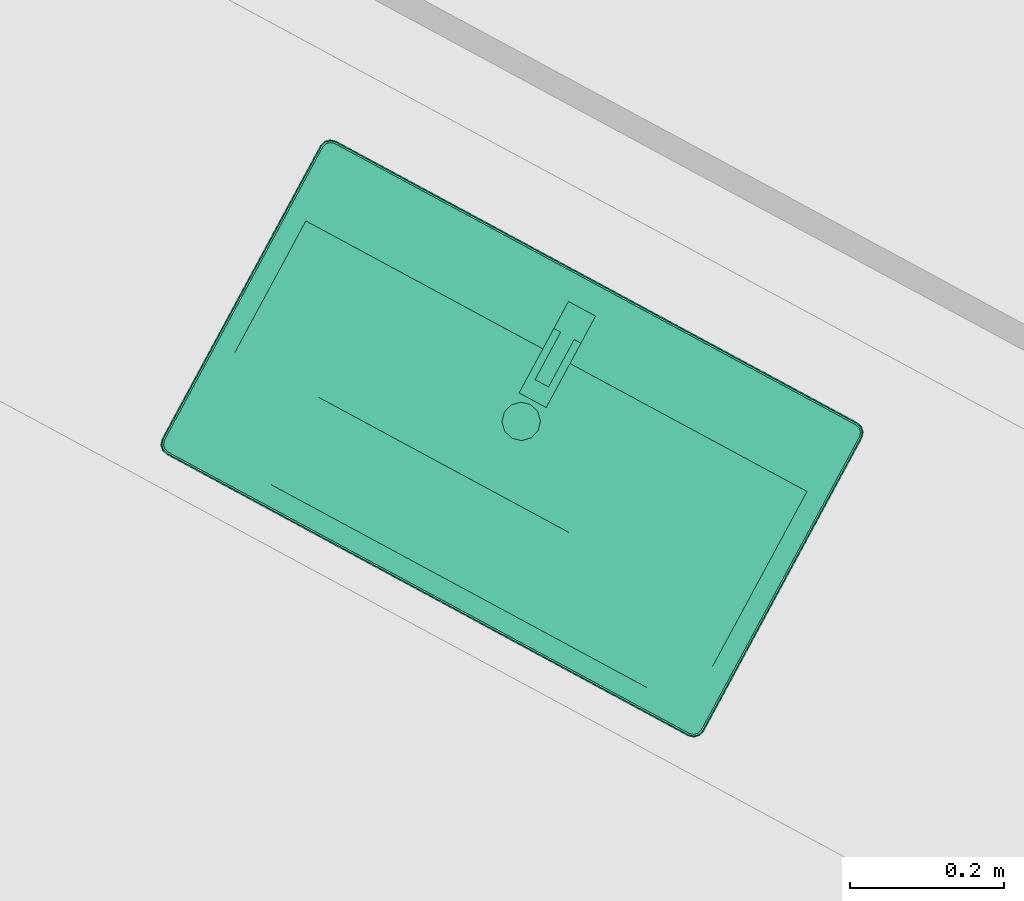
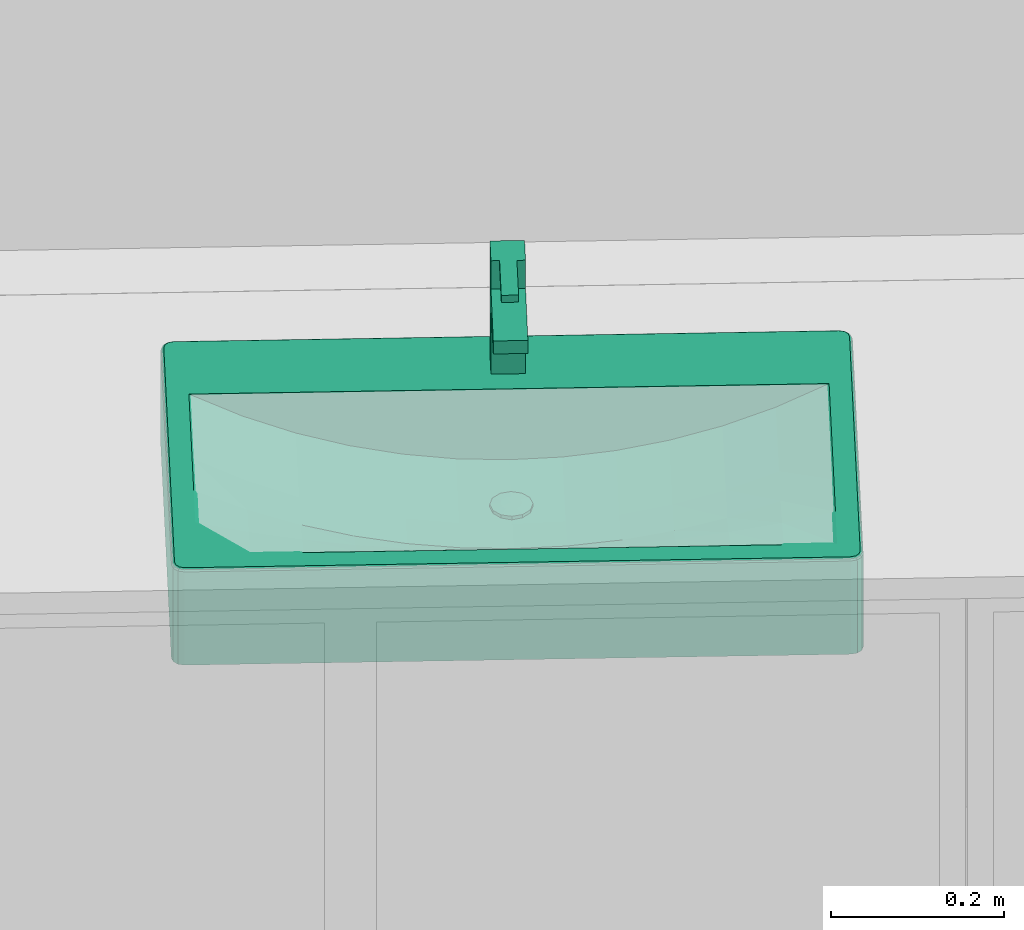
# One storey, part 18 of 48: 1 distribution element.
"""IFC2X3 building model written with IfcOpenShell, lengths in metres."""

from ifc_helpers import new_model, entity, si_unit, converted_unit, derived_unit, money_unit, direction, frame, origin_with_axes, place, context, subcontext, project, spatial, open_shell, faceted_brep, surface_model, type_object, element, save


model = new_model("IFC2X3")

# Units and contexts
model_context = context("Model", 3, precision=1e-05, world=origin_with_axes(), true_north=direction((0.0, 1.0)))
body_context = subcontext(model_context, "Body", "Model", "MODEL_VIEW")
ifc_project = project(units=[si_unit("LENGTHUNIT", "METRE"), si_unit("AREAUNIT", "SQUARE_METRE"), si_unit("VOLUMEUNIT", "CUBIC_METRE"), converted_unit("PLANEANGLEUNIT", "DEGREE", entity("IfcPlaneAngleMeasure", 0.0174532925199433), si_unit("PLANEANGLEUNIT", "RADIAN"), dimensions=[0, 0, 0, 0, 0, 0, 0]), money_unit("EUR"), converted_unit("TIMEUNIT", "Year", entity("IfcTimeMeasure", 31556926.0), si_unit("TIMEUNIT", "SECOND"), dimensions=[0, 0, 1, 0, 0, 0, 0]), si_unit("MASSUNIT", "GRAM", prefix="KILO"), si_unit("THERMODYNAMICTEMPERATUREUNIT", "DEGREE_CELSIUS"), si_unit("LUMINOUSINTENSITYUNIT", "LUMEN"), si_unit("ENERGYUNIT", "JOULE", prefix="MEGA"), derived_unit("THERMALCONDUCTANCEUNIT", [(si_unit("POWERUNIT", "WATT"), 1), (si_unit("LENGTHUNIT", "METRE"), -1), (si_unit("THERMODYNAMICTEMPERATUREUNIT", "KELVIN"), -1)]), derived_unit("SPECIFICHEATCAPACITYUNIT", [(si_unit("ENERGYUNIT", "JOULE"), 1), (si_unit("MASSUNIT", "GRAM", prefix="KILO"), -1), (si_unit("THERMODYNAMICTEMPERATUREUNIT", "KELVIN"), -1)]), derived_unit("MASSDENSITYUNIT", [(si_unit("MASSUNIT", "GRAM", prefix="KILO"), 1), (si_unit("VOLUMEUNIT", "CUBIC_METRE"), -1)])], contexts=[model_context])

# Site, building, storey
site_placement = place(None, frame((-3.949935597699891, 1.740105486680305, 0.0), z_axis=(0.0, 0.0, 1.0), x_axis=(0.8799804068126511, -0.475009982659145, 0.0)))
site = spatial("IfcSite", under=ifc_project, at=site_placement, Name="Gelände", CompositionType="ELEMENT")
building_placement = place(site_placement, origin_with_axes())
building = spatial("IfcBuilding", under=site, at=building_placement, Name="Gebäude", CompositionType="ELEMENT")
storey_placement = place(building_placement, frame((0.0, 0.0, 4.55), z_axis=(0.0, 0.0, 1.0), x_axis=(1.0, 0.0, 0.0)))
storey = spatial("IfcBuildingStorey", under=building, at=storey_placement, Name="Staffelgeschoss", CompositionType="ELEMENT", Elevation=4.55)

# Distribution element
distribution_element_type = type_object("IfcDistributionElementType", Name="Waschbecken 1 22")
distribution_element_placement = place(storey_placement, frame((22.421146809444, 4.431900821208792, 0.0), z_axis=(0.0, 0.0, 1.0), x_axis=(1.0, 0.0, 0.0)))
element("IfcDistributionElement", 1, at=distribution_element_placement, inside=storey, type_object=distribution_element_type, Name="Objekt-0061", context=body_context, shape_type="SurfaceModel", body=[
    faceted_brep([(-0.385, -0.4629798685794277, 0.715), (-0.3925, -0.4609702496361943, 0.715), (-0.3979903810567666, -0.4554798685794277, 0.715), (-0.4, -0.4479798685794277, 0.715), (-0.4, -0.01500000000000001, 0.715), (-0.3979903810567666, -0.007500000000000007, 0.715), (-0.3925, -0.002009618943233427, 0.715), (-0.385, 0.0, 0.715), (0.385, 0.0, 0.715), (0.3925, -0.002009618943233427, 0.715), (0.3979903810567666, -0.007500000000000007, 0.715), (0.4, -0.01500000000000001, 0.715), (0.4, -0.4479798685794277, 0.715), (0.3979903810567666, -0.4554798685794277, 0.715), (0.3925, -0.4609702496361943, 0.715), (0.385, -0.4629798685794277, 0.715), (0.37, -0.4329798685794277, 0.715), (0.37, -0.11, 0.715), (-0.37, -0.11, 0.715), (-0.37, -0.4329798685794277, 0.715), (-0.3849999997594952, -0.4629798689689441, 0.845), (-0.3925000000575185, -0.4609702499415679, 0.845), (-0.3979903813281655, -0.4554798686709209, 0.845), (-0.4000000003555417, -0.4479798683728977, 0.845), (-0.4000000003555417, -0.01499999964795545, 0.845), (-0.3979903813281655, -0.007500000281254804, 0.845), (-0.3925000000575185, -0.002009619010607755, 0.845), (-0.3849999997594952, 0.0, 0.845), (0.3849999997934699, 0.0, 0.845), (0.3925000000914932, -0.002009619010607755, 0.845), (0.3979903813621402, -0.007500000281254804, 0.845), (0.4000000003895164, -0.01499999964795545, 0.845), (0.4000000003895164, -0.4479798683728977, 0.845), (0.3979903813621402, -0.4554798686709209, 0.845), (0.3925000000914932, -0.4609702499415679, 0.845), (0.3849999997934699, -0.4629798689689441, 0.845), (0.37, -0.11, 0.84999999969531), (0.37, -0.4329798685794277, 0.84999999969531), (-0.37, -0.11, 0.84999999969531), (-0.37, -0.4329798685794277, 0.84999999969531), (-0.3849775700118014, -0.4628094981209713, 0.8462940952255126), (-0.3924118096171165, -0.4608174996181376, 0.8462940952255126), (-0.3978376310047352, -0.4553916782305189, 0.8462940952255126), (-0.3998296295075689, -0.4479574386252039, 0.8462940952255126), (-0.3998296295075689, -0.01502242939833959, 0.8462940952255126), (-0.3978376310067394, -0.007588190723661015, 0.8462940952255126), (-0.3924118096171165, -0.002162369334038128, 0.8462940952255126), (-0.3849775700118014, -0.0001703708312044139, 0.8462940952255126), (0.3849775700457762, -0.0001703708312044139, 0.8462940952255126), (0.3924118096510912, -0.002162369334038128, 0.8462940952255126), (0.3978376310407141, -0.007588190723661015, 0.8462940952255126), (0.3998296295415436, -0.01502242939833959, 0.8462940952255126), (0.3998296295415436, -0.4479574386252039, 0.8462940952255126), (0.3978376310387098, -0.4553916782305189, 0.8462940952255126), (0.3924118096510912, -0.4608174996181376, 0.8462940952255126), (0.3849775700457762, -0.4628094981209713, 0.8462940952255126), (0.3843417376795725, -0.004999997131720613, 0.84999999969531), (-0.3843417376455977, -0.004999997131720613, 0.84999999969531), (-0.3899118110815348, -0.006492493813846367, 0.84999999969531), (-0.3935075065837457, -0.01008818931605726, 0.84999999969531), (-0.3950000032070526, -0.01565826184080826, 0.84999999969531), (-0.3950000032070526, -0.4473216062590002, 0.84999999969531), (-0.3935075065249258, -0.4528916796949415, 0.84999999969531), (-0.3899118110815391, -0.4564873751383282, 0.84999999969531), (-0.3843417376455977, -0.4579798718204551, 0.84999999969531), (0.3843417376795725, -0.4579798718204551, 0.84999999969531), (0.3899118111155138, -0.4564873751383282, 0.84999999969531), (0.3935075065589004, -0.4528916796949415, 0.84999999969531), (0.3950000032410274, -0.4473216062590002, 0.84999999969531), (0.3950000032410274, -0.01565826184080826, 0.84999999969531), (0.3935075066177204, -0.01008818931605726, 0.84999999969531), (0.3899118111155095, -0.006492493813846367, 0.84999999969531), (-0.3848071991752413, -0.4615154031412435, 0.8485355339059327), (-0.3917419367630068, -0.4596572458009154, 0.8485355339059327), (-0.396677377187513, -0.4547218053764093, 0.8485355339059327), (-0.398535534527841, -0.4477870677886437, 0.8485355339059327), (-0.398535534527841, -0.01519280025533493, 0.8485355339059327), (-0.3966773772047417, -0.00825806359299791, 0.8485355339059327), (-0.391741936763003, -0.003322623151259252, 0.8485355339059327), (-0.3848071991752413, -0.001464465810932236, 0.8485355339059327), (0.384807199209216, -0.001464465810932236, 0.8485355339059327), (0.3917419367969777, -0.003322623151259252, 0.8485355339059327), (0.3966773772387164, -0.00825806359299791, 0.8485355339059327), (0.3985355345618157, -0.01519280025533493, 0.8485355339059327), (0.3985355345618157, -0.4477870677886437, 0.8485355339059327), (0.3966773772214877, -0.4547218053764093, 0.8485355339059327), (0.3917419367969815, -0.4596572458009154, 0.8485355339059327), (0.384807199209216, -0.4615154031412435, 0.8485355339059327), (0.3845121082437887, -0.003705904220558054, 0.8498296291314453), (-0.3845121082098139, -0.003705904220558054, 0.8498296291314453), (-0.3905816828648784, -0.005332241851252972, 0.8498296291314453), (-0.3946677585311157, -0.009418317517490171, 0.8498296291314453), (-0.3962940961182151, -0.01548789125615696, 0.8498296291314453), (-0.3962940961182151, -0.4474919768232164, 0.8498296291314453), (-0.3946677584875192, -0.453561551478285, 0.8498296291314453), (-0.3905816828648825, -0.4576476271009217, 0.8498296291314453), (-0.3845121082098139, -0.4592739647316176, 0.8498296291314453), (0.3845121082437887, -0.4592739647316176, 0.8498296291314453), (0.3905816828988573, -0.4576476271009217, 0.8498296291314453), (0.3946677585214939, -0.453561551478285, 0.8498296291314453), (0.3962940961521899, -0.4474919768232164, 0.8498296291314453), (0.3962940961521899, -0.01548789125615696, 0.8498296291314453), (0.3946677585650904, -0.009418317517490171, 0.8498296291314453), (0.3905816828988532, -0.005332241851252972, 0.8498296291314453)], [[[0, 1, 2, 3, 4, 5, 6, 7, 8, 9, 10, 11, 12, 13, 14, 15], [16, 17, 18, 19]], [[1, 0, 20, 21]], [[2, 1, 21, 22]], [[3, 2, 22, 23]], [[4, 3, 23, 24]], [[5, 4, 24, 25]], [[6, 5, 25, 26]], [[7, 6, 26, 27]], [[8, 7, 27, 28]], [[9, 8, 28, 29]], [[10, 9, 29, 30]], [[11, 10, 30, 31]], [[12, 11, 31, 32]], [[13, 12, 32, 33]], [[14, 13, 33, 34]], [[15, 14, 34, 35]], [[0, 15, 35, 20]], [[36, 17, 16, 37]], [[38, 18, 17, 36]], [[39, 19, 18, 38]], [[37, 16, 19, 39]], [[21, 20, 40, 41]], [[22, 21, 41, 42]], [[23, 22, 42, 43]], [[24, 23, 43, 44]], [[25, 24, 44, 45]], [[26, 25, 45, 46]], [[27, 26, 46, 47]], [[28, 27, 47, 48]], [[29, 28, 48, 49]], [[30, 29, 49, 50]], [[31, 30, 50, 51]], [[32, 31, 51, 52]], [[33, 32, 52, 53]], [[34, 33, 53, 54]], [[35, 34, 54, 55]], [[20, 35, 55, 40]], [[56, 57, 58, 59, 60, 61, 62, 63, 64, 65, 66, 67, 68, 69, 70, 71], [37, 39, 38, 36]], [[41, 40, 72, 73]], [[42, 41, 73, 74]], [[43, 42, 74, 75]], [[44, 43, 75, 76]], [[45, 44, 76, 77]], [[46, 45, 77, 78]], [[47, 46, 78, 79]], [[48, 47, 79, 80]], [[49, 48, 80, 81]], [[50, 49, 81, 82]], [[51, 50, 82, 83]], [[52, 51, 83, 84]], [[53, 52, 84, 85]], [[54, 53, 85, 86]], [[55, 54, 86, 87]], [[40, 55, 87, 72]], [[88, 89, 57, 56]], [[89, 90, 58, 57]], [[90, 91, 59, 58]], [[91, 92, 60, 59]], [[92, 93, 61, 60]], [[93, 94, 62, 61]], [[94, 95, 63, 62]], [[95, 96, 64, 63]], [[96, 97, 65, 64]], [[97, 98, 66, 65]], [[98, 99, 67, 66]], [[99, 100, 68, 67]], [[100, 101, 69, 68]], [[101, 102, 70, 69]], [[102, 103, 71, 70]], [[103, 88, 56, 71]], [[73, 72, 96, 95]], [[74, 73, 95, 94]], [[75, 74, 94, 93]], [[76, 75, 93, 92]], [[77, 76, 92, 91]], [[78, 77, 91, 90]], [[79, 78, 90, 89]], [[80, 79, 89, 88]], [[81, 80, 88, 103]], [[82, 81, 103, 102]], [[83, 82, 102, 101]], [[84, 83, 101, 100]], [[85, 84, 100, 99]], [[86, 85, 99, 98]], [[87, 86, 98, 97]], [[72, 87, 97, 96]]]),
    faceted_brep([(0.37, -0.4329798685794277, 0.715), (-0.37, -0.4329798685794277, 0.715), (-0.37, -0.11, 0.715), (0.37, -0.11, 0.715), (-0.01249999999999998, -0.2279082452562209, 0.715), (0.0, -0.2312576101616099, 0.715), (0.01250000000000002, -0.2279082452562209, 0.715), (0.02165063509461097, -0.2187576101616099, 0.715), (0.025, -0.2062576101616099, 0.715), (0.02165063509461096, -0.1937576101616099, 0.715), (0.01249999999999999, -0.184606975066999, 0.715), (0.0, -0.18125761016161, 0.715), (-0.01250000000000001, -0.184606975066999, 0.715), (-0.02165063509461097, -0.1937576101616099, 0.715), (-0.025, -0.20625761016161, 0.715), (-0.02165063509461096, -0.21875761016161, 0.715), (0.185, -0.4329798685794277, 0.85), (0.1233333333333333, -0.4329798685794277, 0.85), (0.06166666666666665, -0.4329798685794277, 0.85), (0.0, -0.4329798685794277, 0.85), (-0.0616666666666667, -0.4329798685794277, 0.85), (-0.1233333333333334, -0.4329798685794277, 0.85), (-0.1850000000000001, -0.4329798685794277, 0.85), (-0.2466666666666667, -0.4329798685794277, 0.85), (-0.3083333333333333, -0.4329798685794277, 0.85), (-0.37, -0.4329798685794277, 0.85), (0.37, -0.4329798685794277, 0.85), (0.3083333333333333, -0.4329798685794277, 0.85), (0.2466666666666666, -0.4329798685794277, 0.85), (-0.37, -0.2391919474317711, 0.8499999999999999), (-0.37, -0.1745959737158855, 0.8499999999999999), (-0.37, -0.11, 0.8499999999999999), (-0.37, -0.3683838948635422, 0.85), (-0.37, -0.3037879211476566, 0.8499999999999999), (-0.1850000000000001, -0.11, 0.7736798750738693), (-0.1233333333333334, -0.11, 0.7604287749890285), (-0.0616666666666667, -0.11, 0.7525932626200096), (0.0, -0.11, 0.75), (0.06166666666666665, -0.11, 0.7525932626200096), (0.1233333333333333, -0.11, 0.7604287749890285), (0.185, -0.11, 0.7736798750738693), (0.2466666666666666, -0.11, 0.7926576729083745), (0.3083333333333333, -0.11, 0.8178510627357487), (0.37, -0.11, 0.85), (-0.3083333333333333, -0.11, 0.8178510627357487), (-0.2466666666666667, -0.11, 0.7926576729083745), (0.37, -0.3037879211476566, 0.85), (0.37, -0.3683838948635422, 0.85), (0.37, -0.1745959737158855, 0.85), (0.37, -0.2391919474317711, 0.85), (0.0, -0.2312576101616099, 0.75), (-0.01249999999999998, -0.2279082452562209, 0.7505256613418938), (0.01250000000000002, -0.2279082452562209, 0.7505256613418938), (0.02165063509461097, -0.2187576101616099, 0.7509104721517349), (0.025, -0.2062576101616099, 0.7510513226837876), (0.02165063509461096, -0.1937576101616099, 0.7509104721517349), (0.01249999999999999, -0.184606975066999, 0.7505256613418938), (0.0, -0.18125761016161, 0.75), (-0.01250000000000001, -0.184606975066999, 0.7505256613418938), (-0.02165063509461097, -0.1937576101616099, 0.7509104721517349), (-0.025, -0.20625761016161, 0.7510513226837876), (-0.02165063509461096, -0.21875761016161, 0.7509104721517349), (0.1233333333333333, -0.3683838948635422, 0.8078267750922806), (0.06166666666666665, -0.3683838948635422, 0.8039351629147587), (0.0, -0.3683838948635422, 0.8026402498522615), (-0.0616666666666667, -0.3683838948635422, 0.8039351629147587), (-0.1233333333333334, -0.3683838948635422, 0.8078267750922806), (-0.1850000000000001, -0.3683838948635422, 0.814335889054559), (-0.2466666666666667, -0.3683838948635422, 0.8234977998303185), (-0.3083333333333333, -0.3683838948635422, 0.8353632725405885), (0.3083333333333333, -0.3683838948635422, 0.8353632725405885), (0.2466666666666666, -0.3683838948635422, 0.8234977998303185), (0.185, -0.3683838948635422, 0.814335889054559), (-0.3083333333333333, -0.2391919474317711, 0.8178510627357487), (-0.3083333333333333, -0.1745959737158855, 0.8178510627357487), (-0.3083333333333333, -0.3037879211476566, 0.8214477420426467), (-0.1850000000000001, -0.1745959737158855, 0.7736798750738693), (-0.1233333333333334, -0.1745959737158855, 0.7604287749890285), (-0.0616666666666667, -0.1745959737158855, 0.7525932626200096), (0.0, -0.1745959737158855, 0.75), (0.06166666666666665, -0.1745959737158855, 0.7525932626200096), (0.1233333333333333, -0.1745959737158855, 0.7604287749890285), (0.185, -0.1745959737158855, 0.7736798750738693), (0.2466666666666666, -0.1745959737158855, 0.7926576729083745), (0.3083333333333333, -0.1745959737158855, 0.8178510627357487), (-0.2466666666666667, -0.1745959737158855, 0.7926576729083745), (0.3083333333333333, -0.3037879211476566, 0.8214477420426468), (0.3083333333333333, -0.2391919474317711, 0.8178510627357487), (-0.0616666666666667, -0.2391919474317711, 0.7525932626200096), (0.0, -0.2391919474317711, 0.75), (0.06166666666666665, -0.2391919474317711, 0.7525932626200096), (-0.2466666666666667, -0.2391919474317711, 0.7926576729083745), (-0.1850000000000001, -0.2391919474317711, 0.7736798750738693), (-0.1233333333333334, -0.2391919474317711, 0.7604287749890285), (0.1233333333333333, -0.2391919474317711, 0.7604287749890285), (0.185, -0.2391919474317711, 0.7736798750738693), (0.2466666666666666, -0.2391919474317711, 0.7926576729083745), (0.0, -0.3037879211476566, 0.7603000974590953), (0.06166666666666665, -0.3037879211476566, 0.7626568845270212), (0.1233333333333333, -0.3037879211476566, 0.7697689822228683), (-0.0616666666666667, -0.3037879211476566, 0.7626568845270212), (-0.1233333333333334, -0.3037879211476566, 0.7697689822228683), (-0.1850000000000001, -0.3037879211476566, 0.7817653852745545), (-0.2466666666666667, -0.3037879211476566, 0.798874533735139), (0.2466666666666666, -0.3037879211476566, 0.7988745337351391), (0.185, -0.3037879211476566, 0.7817653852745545)], [[[0, 1, 2, 3], [4, 5, 6, 7, 8, 9, 10, 11, 12, 13, 14, 15]], [[16, 17, 18, 19, 20, 21, 22, 23, 24, 25, 1, 0, 26, 27, 28]], [[29, 30, 31, 2, 1, 25, 32, 33]], [[34, 35, 36, 37, 38, 39, 40, 41, 42, 43, 3, 2, 31, 44, 45]], [[46, 47, 26, 0, 3, 43, 48, 49]], [[50, 5, 4, 51]], [[52, 6, 5, 50]], [[53, 7, 6, 52]], [[54, 8, 7, 53]], [[55, 9, 8, 54]], [[56, 10, 9, 55]], [[57, 11, 10, 56]], [[58, 12, 11, 57]], [[59, 13, 12, 58]], [[60, 14, 13, 59]], [[61, 15, 14, 60]], [[51, 4, 15, 61]], [[16, 62, 17]], [[17, 63, 18]], [[18, 64, 19]], [[19, 65, 20]], [[20, 66, 21]], [[21, 67, 22]], [[22, 68, 23]], [[23, 69, 24]], [[24, 32, 25]], [[26, 70, 27]], [[27, 71, 28]], [[28, 72, 16]], [[29, 73, 74, 30]], [[30, 74, 44, 31]], [[69, 33, 32]], [[75, 29, 33]], [[76, 77, 35, 34]], [[77, 78, 36, 35]], [[78, 79, 37, 36]], [[79, 80, 38, 37]], [[80, 81, 39, 38]], [[81, 82, 40, 39]], [[82, 83, 41, 40]], [[83, 84, 42, 41]], [[84, 48, 43, 42]], [[74, 85, 45, 44]], [[85, 76, 34, 45]], [[47, 46, 86]], [[26, 47, 70]], [[87, 49, 48, 84]], [[46, 49, 87]], [[58, 57, 79, 78, 88, 89, 50, 51, 61, 60, 59]], [[56, 55, 54, 53, 52, 50, 89, 90, 80, 79, 57]], [[16, 72, 62]], [[17, 62, 63]], [[18, 63, 64]], [[19, 64, 65]], [[20, 65, 66]], [[21, 66, 67]], [[22, 67, 68]], [[23, 68, 69]], [[24, 69, 32]], [[27, 70, 71]], [[28, 71, 72]], [[75, 73, 29]], [[73, 91, 85, 74]], [[69, 75, 33]], [[92, 93, 77, 76]], [[93, 88, 78, 77]], [[90, 94, 81, 80]], [[94, 95, 82, 81]], [[95, 96, 83, 82]], [[96, 87, 84, 83]], [[91, 92, 76, 85]], [[46, 87, 86]], [[47, 86, 70]], [[97, 89, 88]], [[98, 90, 89]], [[72, 99, 62]], [[62, 98, 63]], [[63, 97, 64]], [[64, 100, 65]], [[65, 101, 66]], [[66, 102, 67]], [[67, 103, 68]], [[68, 75, 69]], [[70, 104, 71]], [[71, 105, 72]], [[103, 73, 75]], [[103, 91, 73]], [[101, 93, 92]], [[100, 88, 93]], [[99, 94, 90]], [[105, 95, 94]], [[104, 96, 95]], [[86, 87, 96]], [[102, 92, 91]], [[70, 86, 104]], [[98, 89, 97]], [[97, 88, 100]], [[99, 90, 98]], [[72, 105, 99]], [[62, 99, 98]], [[63, 98, 97]], [[64, 97, 100]], [[65, 100, 101]], [[66, 101, 102]], [[67, 102, 103]], [[68, 103, 75]], [[71, 104, 105]], [[102, 91, 103]], [[100, 93, 101]], [[101, 92, 102]], [[105, 94, 99]], [[104, 95, 105]], [[86, 96, 104]]]),
    faceted_brep([(-0.02165063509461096, -0.21875761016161, 0.75), (-0.025, -0.20625761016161, 0.75), (-0.02165063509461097, -0.1937576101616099, 0.75), (-0.01250000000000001, -0.184606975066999, 0.75), (0.0, -0.18125761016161, 0.75), (0.01249999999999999, -0.184606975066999, 0.75), (0.02165063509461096, -0.1937576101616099, 0.75), (0.025, -0.2062576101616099, 0.75), (0.02165063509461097, -0.2187576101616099, 0.75), (0.01250000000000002, -0.2279082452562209, 0.75), (0.0, -0.2312576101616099, 0.75), (-0.01249999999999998, -0.2279082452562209, 0.75), (-0.02165063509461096, -0.21875761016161, 0.755), (-0.025, -0.20625761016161, 0.755), (-0.02165063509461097, -0.1937576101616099, 0.755), (-0.01250000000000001, -0.184606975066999, 0.755), (0.0, -0.18125761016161, 0.755), (0.01249999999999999, -0.184606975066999, 0.755), (0.02165063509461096, -0.1937576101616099, 0.755), (0.025, -0.2062576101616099, 0.755), (0.02165063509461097, -0.2187576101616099, 0.755), (0.01250000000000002, -0.2279082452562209, 0.755), (0.0, -0.2312576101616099, 0.755), (-0.01249999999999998, -0.2279082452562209, 0.755)], [[[0, 1, 2, 3, 4, 5, 6, 7, 8, 9, 10, 11]], [[0, 12, 13, 1]], [[1, 13, 14, 2]], [[2, 14, 15, 3]], [[3, 15, 16, 4]], [[4, 16, 17, 5]], [[5, 17, 18, 6]], [[6, 18, 19, 7]], [[7, 19, 20, 8]], [[8, 20, 21, 9]], [[9, 21, 22, 10]], [[10, 22, 23, 11]], [[11, 23, 12, 0]], [[12, 23, 22, 21, 20, 19, 18, 17, 16, 15, 14, 13]]]),
    surface_model("IfcShellBasedSurfaceModel", [(0.0, -0.20625761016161, 0.757), (0.006310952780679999, -0.1953267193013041, 0.7564975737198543), (0.0, -0.19363570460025, 0.7564975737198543), (0.01093089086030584, -0.19994665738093, 0.7564975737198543), (0.0125, -0.184606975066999, 0.755), (0.0, -0.18125761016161, 0.755), (-0.006310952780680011, -0.1953267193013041, 0.7564975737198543), (0.01262190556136, -0.20625761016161, 0.7564975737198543), (0.02165063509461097, -0.1937576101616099, 0.755), (-0.01250000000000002, -0.184606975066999, 0.755), (-0.01093089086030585, -0.19994665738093, 0.7564975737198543), (0.01093089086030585, -0.21256856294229, 0.7564975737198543), (0.025, -0.20625761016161, 0.755), (-0.02165063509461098, -0.19375761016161, 0.755), (-0.01262190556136, -0.20625761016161, 0.7564975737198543), (0.006310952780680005, -0.2171885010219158, 0.7564975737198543), (0.02165063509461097, -0.2187576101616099, 0.755), (-0.025, -0.20625761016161, 0.755), (-0.01093089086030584, -0.21256856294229, 0.7564975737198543), (0.0, -0.21887951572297, 0.7564975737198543), (0.01250000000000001, -0.2279082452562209, 0.755), (-0.02165063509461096, -0.21875761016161, 0.755), (-0.006310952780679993, -0.2171885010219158, 0.7564975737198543), (0.0, -0.2312576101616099, 0.755), (-0.01249999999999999, -0.2279082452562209, 0.755)], [open_shell([[[0, 1, 2]], [[0, 3, 1]], [[1, 4, 5, 2]], [[0, 2, 6]], [[0, 7, 3]], [[3, 8, 4, 1]], [[2, 5, 9, 6]], [[0, 6, 10]], [[0, 11, 7]], [[7, 12, 8, 3]], [[6, 9, 13, 10]], [[0, 10, 14]], [[0, 15, 11]], [[11, 16, 12, 7]], [[10, 13, 17, 14]], [[0, 14, 18]], [[0, 19, 15]], [[15, 20, 16, 11]], [[14, 17, 21, 18]], [[0, 18, 22]], [[0, 22, 19]], [[19, 23, 20, 15]], [[18, 21, 24, 22]], [[22, 24, 23, 19]]])]),
    faceted_brep([(-0.02, -0.03999999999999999, 0.85), (0.02, -0.04, 0.85), (0.02, -0.08, 0.85), (-0.02, -0.08, 0.85), (-0.02000000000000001, -0.03999999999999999, 0.97), (0.01999999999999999, -0.04, 0.97), (0.01999999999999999, -0.08, 0.97), (0.01999999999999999, -0.175, 0.9633569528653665), (0.01999999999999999, -0.175, 0.945), (0.01999999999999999, -0.08, 0.945), (-0.02000000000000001, -0.08, 0.945), (-0.02000000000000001, -0.175, 0.945), (-0.02000000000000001, -0.175, 0.9633569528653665), (-0.02000000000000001, -0.08, 0.97)], [[[0, 1, 2, 3]], [[4, 5, 1, 0]], [[1, 5, 6, 7, 8, 9, 2]], [[3, 2, 9, 10]], [[0, 3, 10, 11, 12, 13, 4]], [[13, 6, 5, 4]], [[12, 7, 6, 13]], [[11, 8, 7, 12]], [[10, 9, 8, 11]]]),
    faceted_brep([(-0.02, -0.03999999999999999, 0.97), (0.02, -0.04, 0.97), (0.02, -0.08, 0.97), (-0.02, -0.08, 0.97), (-0.02, -0.03999999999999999, 1.01), (0.02, -0.04, 1.01), (0.01999999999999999, -0.08, 1.01), (-0.02, -0.08, 1.01)], [[[0, 1, 2, 3]], [[4, 5, 1, 0]], [[1, 5, 6, 2]], [[3, 2, 6, 7]], [[0, 3, 7, 4]], [[7, 6, 5, 4]]]),
    faceted_brep([(-0.01, -0.08, 1.0), (0.009999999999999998, -0.08, 1.0), (0.009999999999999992, -0.15, 1.0), (-0.01000000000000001, -0.15, 1.0), (-0.01, -0.08, 1.01), (0.009999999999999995, -0.08, 1.01), (0.009999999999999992, -0.15, 1.01), (-0.01000000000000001, -0.15, 1.01)], [[[0, 1, 2, 3]], [[4, 5, 1, 0]], [[1, 5, 6, 2]], [[3, 2, 6, 7]], [[0, 3, 7, 4]], [[7, 6, 5, 4]]]),
])

save(model, "model.ifc")
